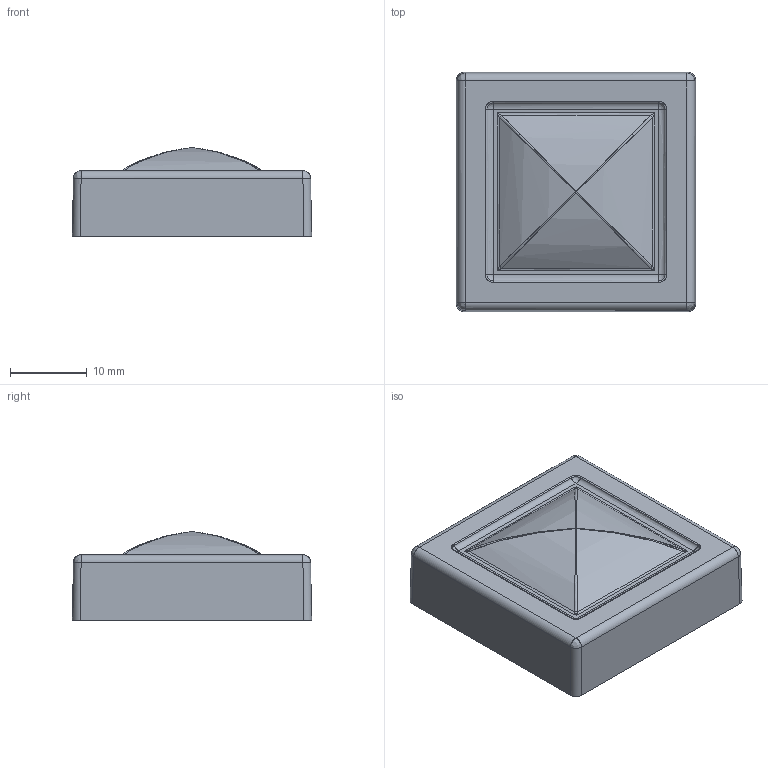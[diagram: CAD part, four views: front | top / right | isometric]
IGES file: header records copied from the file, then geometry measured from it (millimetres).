
Start section: C
Global section: file name: 8149.igs; native system: By Siemens PLM Incorporated; preprocessor: XPlus GENERIC/IGES 16.0.42; author: Author; organization: Title; date: 20231120.141517; units: millimetre
Bounding box: 31.16 x 31.16 x 11.55 mm (x, y, z)
Surface area: 6130.5 mm2 (no closed solid volume)
Topology: 0 solids, 0 shells, 276 faces, 1372 edges, 1351 vertices
Faces by surface type: bspline 276
